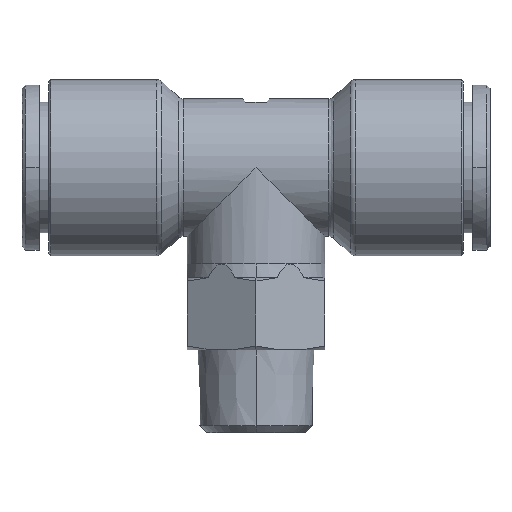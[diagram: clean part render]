
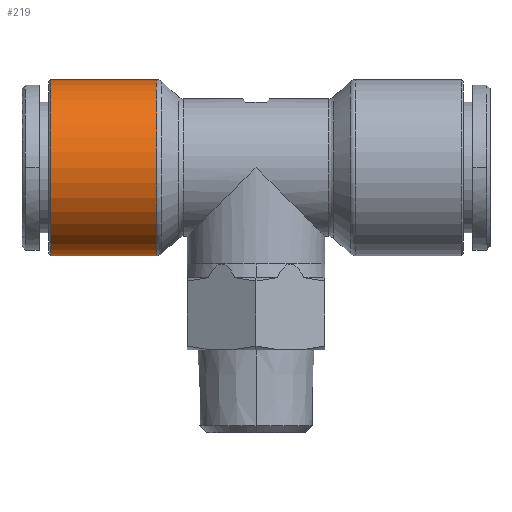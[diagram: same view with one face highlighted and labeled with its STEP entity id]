
A CAD part, front view. The second image highlights one B-rep face of the part: STEP entity #219.
In plain terms, the highlighted cylindrical face has radius 12.8 mm (diameter 25.6 mm), a partial arc.
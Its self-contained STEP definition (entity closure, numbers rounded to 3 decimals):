
#178=CARTESIAN_POINT('',(-20.5,0.,0.));
#179=DIRECTION('',(1.0,0.,0.));
#180=DIRECTION('',(0.0,0.0,1.0));
#181=AXIS2_PLACEMENT_3D('',#178,#179,#180);
#182=CYLINDRICAL_SURFACE('',#181,12.8);
#183=CARTESIAN_POINT('',(-29.3,0.,12.8));
#184=VERTEX_POINT('',#183);
#185=CARTESIAN_POINT('',(-13.894,0.,12.8));
#186=VERTEX_POINT('',#185);
#187=CARTESIAN_POINT('',(-29.3,0.,12.8));
#188=DIRECTION('',(1.0,0.0,0.0));
#189=VECTOR('',#188,15.406);
#190=LINE('',#187,#189);
#191=EDGE_CURVE('',#184,#186,#190,.T.);
#192=ORIENTED_EDGE('',*,*,#191,.F.);
#193=CARTESIAN_POINT('',(-29.3,0.,-12.8));
#194=VERTEX_POINT('',#193);
#195=CARTESIAN_POINT('',(-29.3,0.,0.));
#196=DIRECTION('',(-1.0,0.0,0.0));
#197=DIRECTION('',(0.0,0.0,1.0));
#198=AXIS2_PLACEMENT_3D('',#195,#196,#197);
#199=CIRCLE('',#198,12.8);
#200=EDGE_CURVE('',#194,#184,#199,.T.);
#201=ORIENTED_EDGE('',*,*,#200,.F.);
#202=CARTESIAN_POINT('',(-13.894,0.,-12.8));
#203=VERTEX_POINT('',#202);
#204=CARTESIAN_POINT('',(-13.894,0.,-12.8));
#205=DIRECTION('',(-1.0,0.0,0.0));
#206=VECTOR('',#205,15.406);
#207=LINE('',#204,#206);
#208=EDGE_CURVE('',#203,#194,#207,.T.);
#209=ORIENTED_EDGE('',*,*,#208,.F.);
#210=CARTESIAN_POINT('',(-13.894,0.,0.));
#211=DIRECTION('',(1.0,0.0,0.0));
#212=DIRECTION('',(0.0,0.0,-1.0));
#213=AXIS2_PLACEMENT_3D('',#210,#211,#212);
#214=CIRCLE('',#213,12.8);
#215=EDGE_CURVE('',#186,#203,#214,.T.);
#216=ORIENTED_EDGE('',*,*,#215,.F.);
#217=EDGE_LOOP('',(#192,#201,#209,#216));
#218=FACE_OUTER_BOUND('',#217,.T.);
#219=ADVANCED_FACE('',(#218),#182,.T.);
